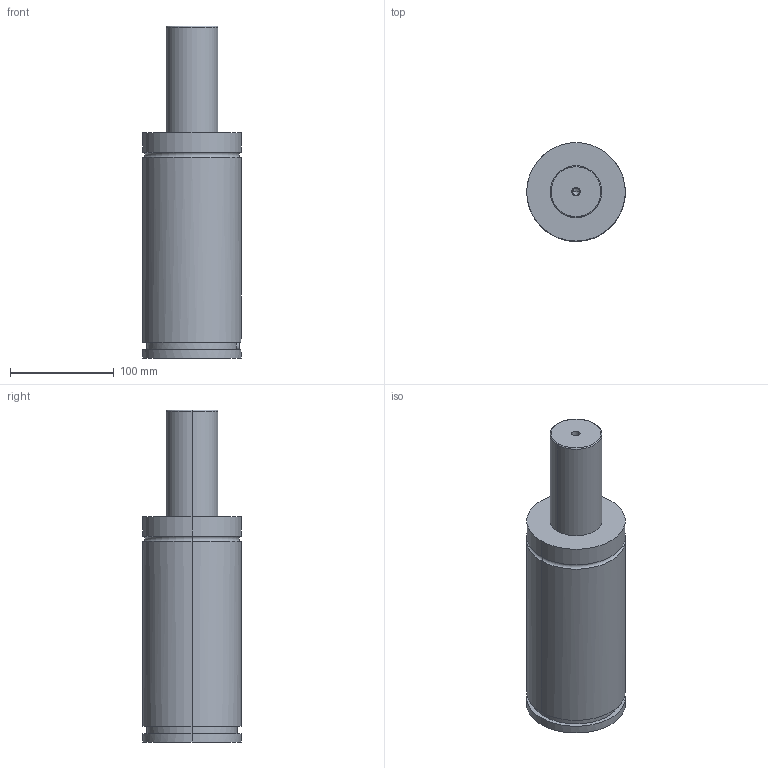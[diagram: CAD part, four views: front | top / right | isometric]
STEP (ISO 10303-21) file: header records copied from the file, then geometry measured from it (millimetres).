
FILE_DESCRIPTION(/* description */ (''),/* implementation_level */ '2;1');
FILE_NAME(/* name */ '3d_gse95-100_03858_r00.stp',/* time_stamp */ '2011-01-10T14:15:18+09:00',/* author */ ('MISUMI'),/* organization */ (''),/* preprocessor_version */ 'ST-DEVELOPER v11',/* originating_system */ 'UGS - NX 5.0',/* authorisation */ '');
FILE_SCHEMA (('CONFIG_CONTROL_DESIGN'));
Length unit declared in the file: millimetre
Products named in the file (1): 3d_gse95-100_03858_r00
Bounding box: 95 x 95 x 320 mm (x, y, z)
Volume: 1724791.3 mm3; surface area: 100410.6 mm2
Topology: 1 solids, 1 shells, 75 faces, 161 edges, 103 vertices
Faces by surface type: cylinder 34, plane 27, cone 10, torus 4
Entity records: 2145 total; most frequent: DIRECTION 393, CARTESIAN_POINT 360, ORIENTED_EDGE 318, AXIS2_PLACEMENT_3D 164, EDGE_CURVE 159, VERTEX_POINT 103, EDGE_LOOP 92, CIRCLE 88
